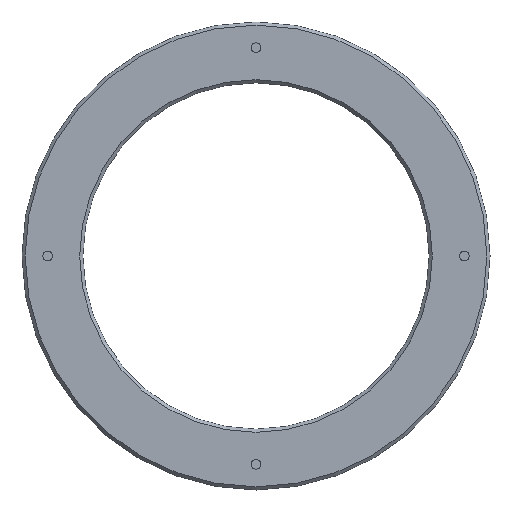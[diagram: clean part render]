
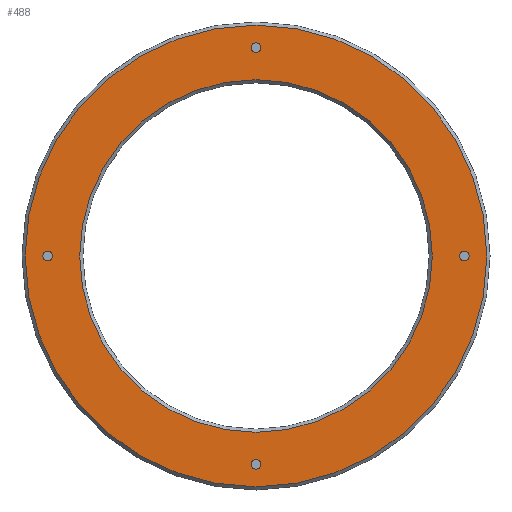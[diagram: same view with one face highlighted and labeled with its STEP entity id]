
A CAD part, front view. The second image highlights one B-rep face of the part: STEP entity #488.
In plain terms, the highlighted planar face has unit normal (0, -1, 0).
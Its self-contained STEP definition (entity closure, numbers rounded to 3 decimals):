
#62=CARTESIAN_POINT('',(0.,0.,-65.));
#63=DIRECTION('',(0.,-1.,0.));
#64=DIRECTION('',(0.,0.,-1.));
#65=AXIS2_PLACEMENT_3D('',#62,#63,#64);
#67=CARTESIAN_POINT('',(0.,0.,-65.));
#68=DIRECTION('',(0.,-1.,0.));
#69=DIRECTION('',(0.,0.,1.));
#70=AXIS2_PLACEMENT_3D('',#67,#68,#69);
#72=CARTESIAN_POINT('',(65.,0.,0.));
#73=DIRECTION('',(0.,-1.,0.));
#74=DIRECTION('',(0.,0.,-1.));
#75=AXIS2_PLACEMENT_3D('',#72,#73,#74);
#77=CARTESIAN_POINT('',(65.,0.,0.));
#78=DIRECTION('',(0.,-1.,0.));
#79=DIRECTION('',(0.,0.,1.));
#80=AXIS2_PLACEMENT_3D('',#77,#78,#79);
#82=CARTESIAN_POINT('',(0.,0.,65.));
#83=DIRECTION('',(0.,-1.,0.));
#84=DIRECTION('',(0.,0.,-1.));
#85=AXIS2_PLACEMENT_3D('',#82,#83,#84);
#87=CARTESIAN_POINT('',(0.,0.,65.));
#88=DIRECTION('',(0.,-1.,0.));
#89=DIRECTION('',(0.,0.,1.));
#90=AXIS2_PLACEMENT_3D('',#87,#88,#89);
#92=CARTESIAN_POINT('',(-65.,0.,0.));
#93=DIRECTION('',(0.,-1.,0.));
#94=DIRECTION('',(0.,0.,-1.));
#95=AXIS2_PLACEMENT_3D('',#92,#93,#94);
#97=CARTESIAN_POINT('',(-65.,0.,0.));
#98=DIRECTION('',(0.,-1.,0.));
#99=DIRECTION('',(0.,0.,1.));
#100=AXIS2_PLACEMENT_3D('',#97,#98,#99);
#102=CARTESIAN_POINT('',(0.,0.,0.));
#103=DIRECTION('',(0.,1.,0.));
#104=DIRECTION('',(-1.,0.,0.));
#105=AXIS2_PLACEMENT_3D('',#102,#103,#104);
#107=CARTESIAN_POINT('',(0.,0.,
0.));
#108=DIRECTION('',(0.,1.,0.));
#109=DIRECTION('',(1.,0.,0.));
#110=AXIS2_PLACEMENT_3D('',#107,#108,#109);
#112=CARTESIAN_POINT('',(0.,0.,
0.));
#113=DIRECTION('',(0.,1.,0.));
#114=DIRECTION('',(1.,0.,0.));
#115=AXIS2_PLACEMENT_3D('',#112,#113,#114);
#117=CARTESIAN_POINT('',(0.,0.,
0.));
#118=DIRECTION('',(0.,1.,0.));
#119=DIRECTION('',(-1.,0.,0.));
#120=AXIS2_PLACEMENT_3D('',#117,#118,#119);
#308=CARTESIAN_POINT('',(0.,0.,-66.5));
#309=CARTESIAN_POINT('',(0.,0.,-63.5));
#310=VERTEX_POINT('',#308);
#311=VERTEX_POINT('',#309);
#312=CARTESIAN_POINT('',(65.,0.,-1.5));
#313=CARTESIAN_POINT('',(65.,0.,1.5));
#314=VERTEX_POINT('',#312);
#315=VERTEX_POINT('',#313);
#316=CARTESIAN_POINT('',(0.,0.,63.5));
#317=CARTESIAN_POINT('',(0.,0.,66.5));
#318=VERTEX_POINT('',#316);
#319=VERTEX_POINT('',#317);
#320=CARTESIAN_POINT('',(-65.,0.,-1.5));
#321=CARTESIAN_POINT('',(-65.,0.,1.5));
#322=VERTEX_POINT('',#320);
#323=VERTEX_POINT('',#321);
#336=CARTESIAN_POINT('',(-72.,0.,
0.));
#337=CARTESIAN_POINT('',(72.,0.,
0.));
#338=VERTEX_POINT('',#336);
#339=VERTEX_POINT('',#337);
#340=CARTESIAN_POINT('',(55.,0.,0.));
#341=CARTESIAN_POINT('',(-55.,0.,
0.));
#342=VERTEX_POINT('',#340);
#343=VERTEX_POINT('',#341);
#448=CARTESIAN_POINT('',(0.,0.,0.));
#449=DIRECTION('',(0.,1.,0.));
#450=DIRECTION('',(1.,0.,0.));
#451=AXIS2_PLACEMENT_3D('',#448,#449,#450);
#452=PLANE('',#451);
#454=ORIENTED_EDGE('',*,*,#453,.T.);
#456=ORIENTED_EDGE('',*,*,#455,.T.);
#457=EDGE_LOOP('',(#454,#456));
#458=FACE_OUTER_BOUND('',#457,.F.);
#460=ORIENTED_EDGE('',*,*,#459,.T.);
#462=ORIENTED_EDGE('',*,*,#461,.T.);
#463=EDGE_LOOP('',(#460,#462));
#464=FACE_BOUND('',#463,.F.);
#466=ORIENTED_EDGE('',*,*,#465,.T.);
#468=ORIENTED_EDGE('',*,*,#467,.T.);
#469=EDGE_LOOP('',(#466,#468));
#470=FACE_BOUND('',#469,.F.);
#472=ORIENTED_EDGE('',*,*,#471,.T.);
#474=ORIENTED_EDGE('',*,*,#473,.T.);
#475=EDGE_LOOP('',(#472,#474));
#476=FACE_BOUND('',#475,.F.);
#478=ORIENTED_EDGE('',*,*,#477,.T.);
#480=ORIENTED_EDGE('',*,*,#479,.T.);
#481=EDGE_LOOP('',(#478,#480));
#482=FACE_BOUND('',#481,.F.);
#484=ORIENTED_EDGE('',*,*,#483,.F.);
#485=ORIENTED_EDGE('',*,*,#438,.F.);
#486=EDGE_LOOP('',(#484,#485));
#487=FACE_BOUND('',#486,.F.);
#66=CIRCLE('',#65,1.5);
#71=CIRCLE('',#70,1.5);
#76=CIRCLE('',#75,1.5);
#81=CIRCLE('',#80,1.5);
#86=CIRCLE('',#85,1.5);
#91=CIRCLE('',#90,1.5);
#96=CIRCLE('',#95,1.5);
#101=CIRCLE('',#100,1.5);
#106=CIRCLE('',#105,72.);
#111=CIRCLE('',#110,72.);
#116=CIRCLE('',#115,55.);
#121=CIRCLE('',#120,55.);
#438=EDGE_CURVE('',#343,#342,#121,.T.);
#453=EDGE_CURVE('',#338,#339,#106,.T.);
#455=EDGE_CURVE('',#339,#338,#111,.T.);
#459=EDGE_CURVE('',#310,#311,#66,.T.);
#461=EDGE_CURVE('',#311,#310,#71,.T.);
#465=EDGE_CURVE('',#314,#315,#76,.T.);
#467=EDGE_CURVE('',#315,#314,#81,.T.);
#471=EDGE_CURVE('',#318,#319,#86,.T.);
#473=EDGE_CURVE('',#319,#318,#91,.T.);
#477=EDGE_CURVE('',#322,#323,#96,.T.);
#479=EDGE_CURVE('',#323,#322,#101,.T.);
#483=EDGE_CURVE('',#342,#343,#116,.T.);
#488=ADVANCED_FACE('',(#458,#464,#470,#476,#482,#487),#452,.F.);
